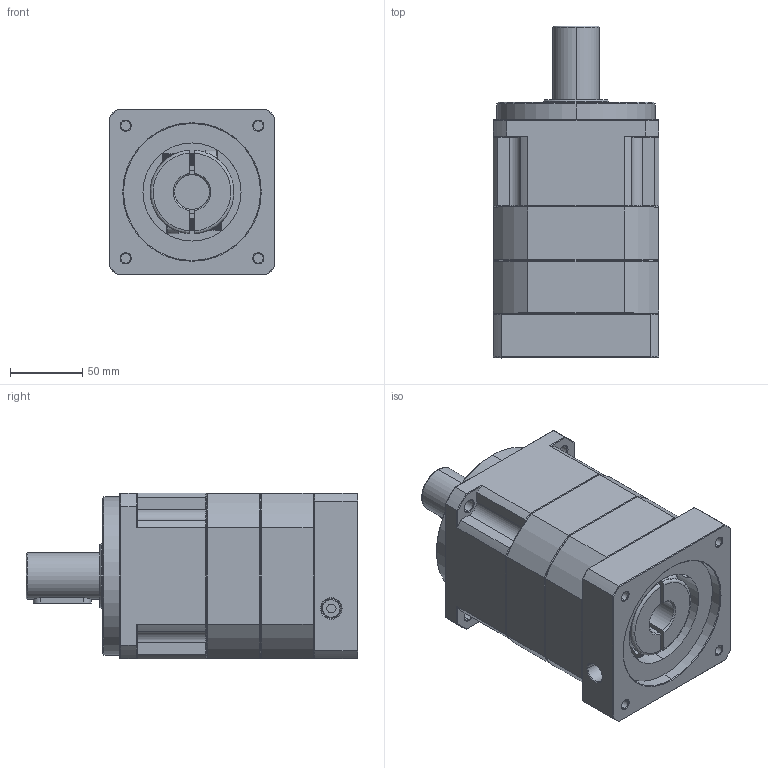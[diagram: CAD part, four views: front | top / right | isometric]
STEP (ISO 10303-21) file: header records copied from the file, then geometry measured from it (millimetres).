
FILE_DESCRIPTION (( 'STEP AP214' ), '1' );
FILE_NAME ('ZPB115-D32-L2-P1-24-95-130-M8.step', '2024-06-11T19:32:46', ( 'Windows 蚚誧' ), ( 'Organization' ), 'SwSTEP 2.0', 'SolidWorks 2016', '' );
FILE_SCHEMA (( 'AUTOMOTIVE_DESIGN' ));
Length unit declared in the file: millimetre
Products named in the file (1): ZPB115-D32-L2-P1-24-95-130-M8
Bounding box: 115 x 230 x 115 mm (x, y, z)
Surface area: 144287.4 mm2 (no closed solid volume)
Topology: 0 solids, 29 shells, 1810 faces, 4890 edges, 3139 vertices
Faces by surface type: plane 931, bspline 381, cone 274, cylinder 224
Full cylindrical faces by diameter (mm): 10.2 x1
Entity records: 98303 total; most frequent: CARTESIAN_POINT 49184, ORIENTED_EDGE 9750, DIRECTION 7459, EDGE_CURVE 4884, LINE 3165, VECTOR 3165, VERTEX_POINT 3137, AXIS2_PLACEMENT_3D 2147
